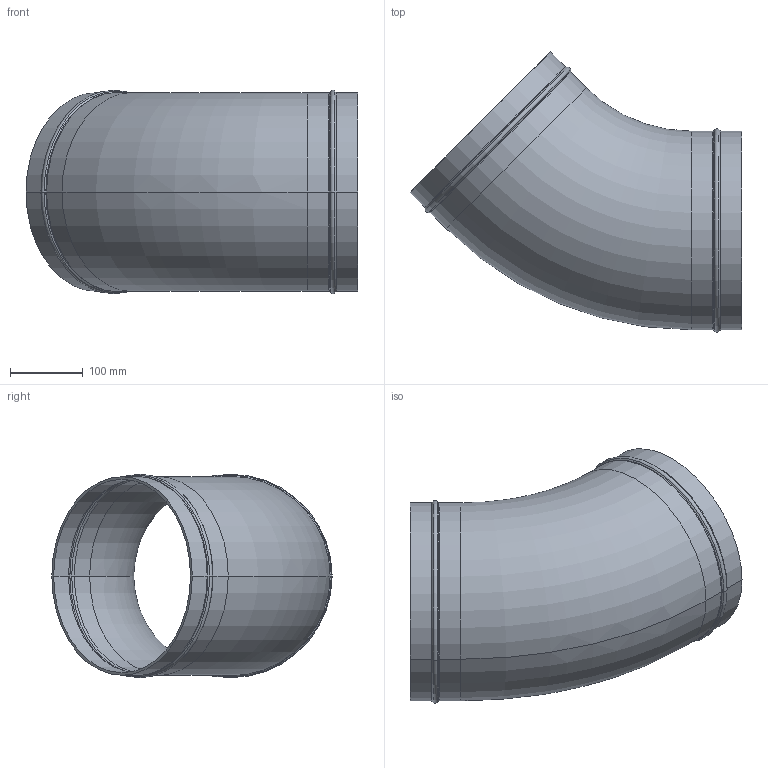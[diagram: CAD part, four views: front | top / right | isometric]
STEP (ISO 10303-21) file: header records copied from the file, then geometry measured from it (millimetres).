
FILE_DESCRIPTION(/* description */ (''),/* implementation_level */ '2;1');
FILE_NAME(/* name */ 'M004_stp.stp',/* time_stamp */ '2025-06-20T11:47:39+08:00',/* author */ (''),/* organization */ (''),/* preprocessor_version */ 'ST-DEVELOPER v14',/* originating_system */ 'SIEMENS PLM Software NX 8.0',/* authorisation */ '');
FILE_SCHEMA (('AP203_CONFIGURATION_CONTROLLED_3D_DESIGN_OF_MECHANICAL_PARTS_AND_ASSEMBLIES_MIM_LF { 1 0 10303 403 2 1 2}'));
Length unit declared in the file: millimetre
Products named in the file (1): Admi0BECFFFE4xv8
Bounding box: 456.36 x 385.36 x 279.57 mm (x, y, z)
Volume: 1220244.5 mm3; surface area: 703209.2 mm2
Topology: 1 solids, 1 shells, 62 faces, 132 edges, 72 vertices
Faces by surface type: torus 28, cylinder 16, cone 16, plane 2
Entity records: 1768 total; most frequent: DIRECTION 358, CARTESIAN_POINT 267, ORIENTED_EDGE 264, AXIS2_PLACEMENT_3D 163, EDGE_CURVE 132, CIRCLE 100, VERTEX_POINT 72, EDGE_LOOP 64
